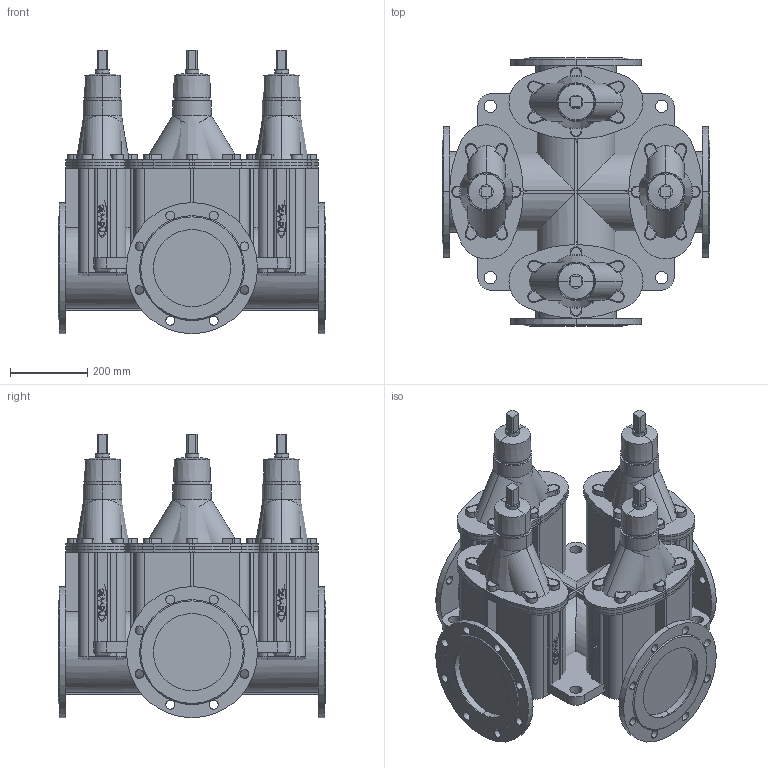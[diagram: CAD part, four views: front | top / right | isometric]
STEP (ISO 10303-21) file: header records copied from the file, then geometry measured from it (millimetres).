
FILE_DESCRIPTION(('STEP AP214'),'1');
FILE_NAME('S:/EK/USER/CAT6/3DHomepage_27-04-2012/neu_10-04-2013/4400E2/4400E2_PN10_DN200_4.STP','2013-04-10T12:37:41',(' '),(' '),'Spatial InterOp 3D',' ',' ');
FILE_SCHEMA(('automotive_design'));
Length unit declared in the file: millimetre
Products named in the file (202): 3D-Objekt
Bounding box: 695 x 695 x 735 mm (x, y, z)
Volume: 110406175.8 mm3; surface area: 6482953.6 mm2
Topology: 202 solids, 202 shells, 1866 faces, 4352 edges, 2898 vertices
Faces by surface type: plane 1010, cylinder 792, cone 32, bspline 16, torus 16
Entity records: 73732 total; most frequent: DIRECTION 10180, CARTESIAN_POINT 9590, ORIENTED_EDGE 8704, EDGE_CURVE 4352, AXIS2_PLACEMENT_3D 3776, VERTEX_POINT 2898, LINE 2628, VECTOR 2628
